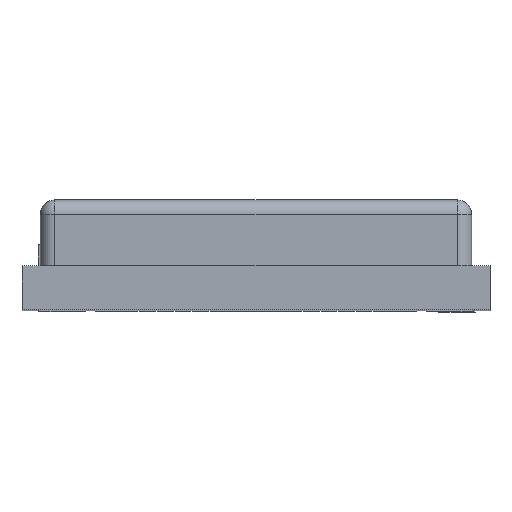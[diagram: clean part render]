
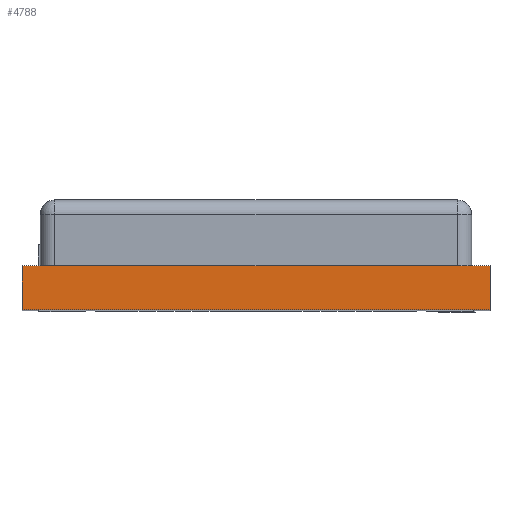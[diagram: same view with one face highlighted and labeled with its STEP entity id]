
A CAD part, top view. The second image highlights one B-rep face of the part: STEP entity #4788.
In plain terms, the highlighted planar face has unit normal (0, 0, 1).
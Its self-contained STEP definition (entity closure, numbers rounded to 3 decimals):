
#65=DIRECTION('',(-1.,0.,0.));
#66=VECTOR('',#65,6.4);
#67=CARTESIAN_POINT('',(3.2,0.,4.2));
#68=LINE('',#67,#66);
#79=DIRECTION('',(0.,1.,0.));
#80=VECTOR('',#79,0.6);
#81=CARTESIAN_POINT('',(-3.2,-0.6,4.2));
#82=LINE('',#81,#80);
#86=DIRECTION('',(0.,1.,0.));
#87=VECTOR('',#86,0.6);
#88=CARTESIAN_POINT('',(3.2,-0.6,4.2));
#89=LINE('',#88,#87);
#107=DIRECTION('',(-1.,0.,0.));
#108=VECTOR('',#107,6.4);
#109=CARTESIAN_POINT('',(3.2,-0.6,4.2));
#110=LINE('',#109,#108);
#3992=CARTESIAN_POINT('',(-3.2,0.,4.2));
#3994=VERTEX_POINT('',#3992);
#3996=CARTESIAN_POINT('',(3.2,0.,4.2));
#3997=VERTEX_POINT('',#3996);
#4000=CARTESIAN_POINT('',(-3.2,-0.6,4.2));
#4002=VERTEX_POINT('',#4000);
#4004=CARTESIAN_POINT('',(3.2,-0.6,4.2));
#4005=VERTEX_POINT('',#4004);
#4775=CARTESIAN_POINT('',(-3.2,0.,4.2));
#4776=DIRECTION('',(0.,0.,1.));
#4777=DIRECTION('',(1.,0.,0.));
#4778=AXIS2_PLACEMENT_3D('',#4775,#4776,#4777);
#4779=PLANE('',#4778);
#4780=ORIENTED_EDGE('',*,*,#4755,.F.);
#4782=ORIENTED_EDGE('',*,*,#4781,.F.);
#4784=ORIENTED_EDGE('',*,*,#4783,.T.);
#4785=ORIENTED_EDGE('',*,*,#4766,.T.);
#4786=EDGE_LOOP('',(#4780,#4782,#4784,#4785));
#4787=FACE_OUTER_BOUND('',#4786,.F.);
#4755=EDGE_CURVE('',#3997,#3994,#68,.T.);
#4766=EDGE_CURVE('',#4002,#3994,#82,.T.);
#4781=EDGE_CURVE('',#4005,#3997,#89,.T.);
#4783=EDGE_CURVE('',#4005,#4002,#110,.T.);
#4788=ADVANCED_FACE('',(#4787),#4779,.T.);
